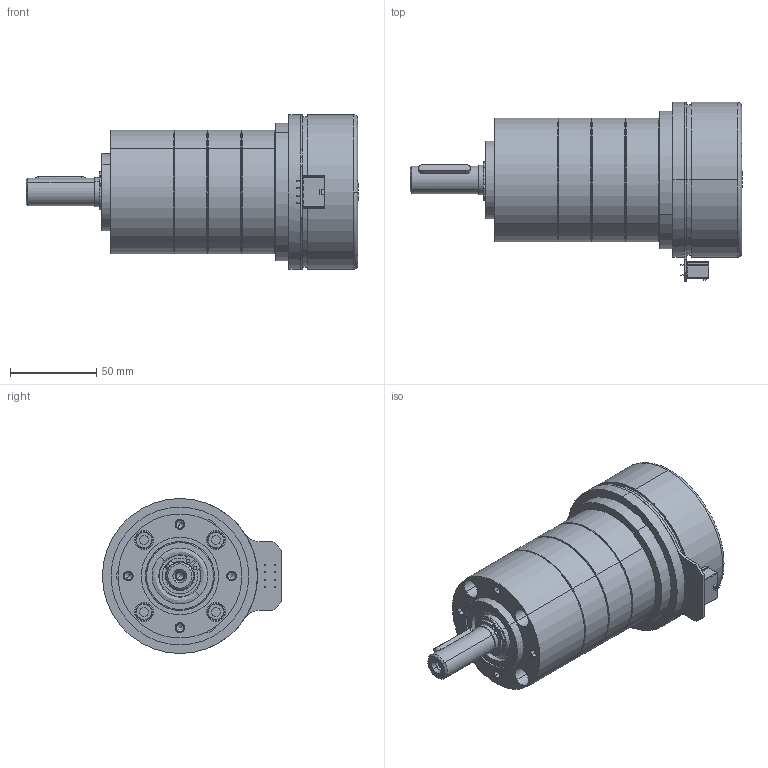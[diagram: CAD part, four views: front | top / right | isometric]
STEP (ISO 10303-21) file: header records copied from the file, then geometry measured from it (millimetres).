
FILE_DESCRIPTION (( 'STEP AP214' ), '1' );
FILE_NAME ('6240902_EC90flat 400W_PM72 - S48 3 étages.STEP', '2019-09-20T09:55:14', ( '' ), ( '' ), 'SwSTEP 2.0', 'SolidWorks 2018', '' );
FILE_SCHEMA (( 'AUTOMOTIVE_DESIGN' ));
Length unit declared in the file: millimetre
Products named in the file (16): 5966040_ADAPT-EC90fl-PM72; 8006242_DICHTRING_5; 1199388_5; 8004800_ANLAUFSCHEIBE_Z23_1ST_1; PM72_3 Ｕages; 6240902_EC90flat 400W_PM72 - S48 3 étages; 8001939_LAGERBOLZEN_5; 8004806_ZAHNKRANZ_Z46_5; D625-6203-2RS_5; 8004822_LAGERFLANSCH_5; 5X5X30_D6885A_5; 8006638_ABTRIEB_LK1_AF0_5; D471_17X1_5_5; EC90fl-400W-V1; D912_M6X40_1; DIN998_PS_17X24X1_5
Assembly tree (29 placements, depth 4):
  6240902_EC90flat 400W_PM72 - S48 3 étages
    PM72_3 Ｕages
      8004822_LAGERFLANSCH_5
      D625-6203-2RS_5  x2
      DIN998_PS_17X24X1_5  x2
      1199388_5
        8006638_ABTRIEB_LK1_AF0_5
        8001939_LAGERBOLZEN_5  x3
      D471_17X1_5_5
      5X5X30_D6885A_5
      8006242_DICHTRING_5  x5
      8004806_ZAHNKRANZ_Z46_5  x4
      D912_M6X40_1  x4
      8004800_ANLAUFSCHEIBE_Z23_1ST_1
    5966040_ADAPT-EC90fl-PM72
    EC90fl-400W-V1
Bounding box: 192.8 x 104 x 90 mm (x, y, z)
Volume: 498138.7 mm3; surface area: 198884.2 mm2
Topology: 25 solids, 42 shells, 1708 faces, 4648 edges, 3061 vertices
Faces by surface type: cylinder 774, plane 773, cone 97, bspline 64
Entity records: 31483 total; most frequent: CARTESIAN_POINT 6387, DIRECTION 5026, ORIENTED_EDGE 4734, EDGE_CURVE 2379, AXIS2_PLACEMENT_3D 1782, VERTEX_POINT 1569, VECTOR 1462, LINE 1462
